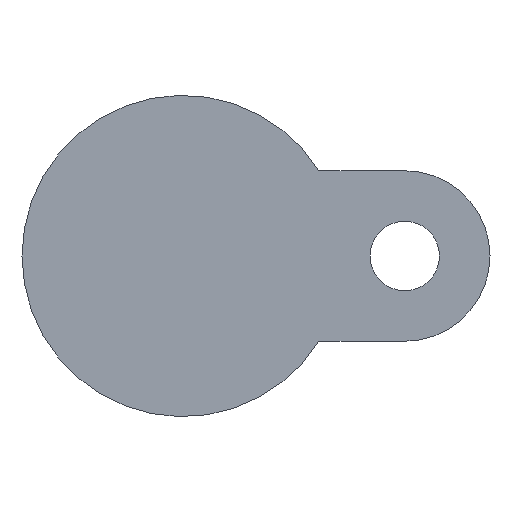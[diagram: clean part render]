
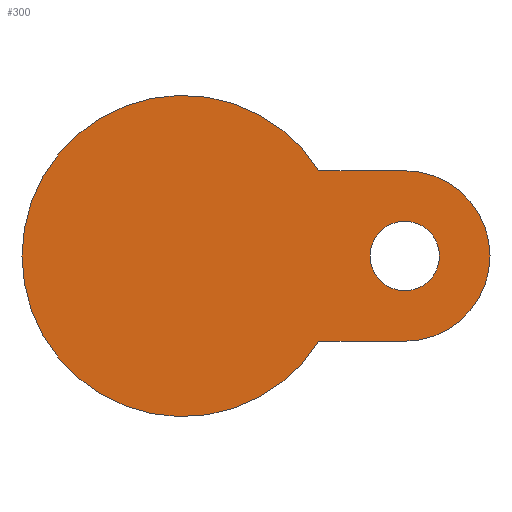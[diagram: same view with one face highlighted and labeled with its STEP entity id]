
A CAD part, front view. The second image highlights one B-rep face of the part: STEP entity #300.
In plain terms, the highlighted planar face has unit normal (0, -1, 0).
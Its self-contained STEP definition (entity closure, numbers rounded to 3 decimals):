
#36 = EDGE_CURVE ( 'NONE', #481, #1413, #1097, .T. ) ;
#50 = CARTESIAN_POINT ( 'NONE',  ( 56., -23., 0. ) ) ;
#70 = CARTESIAN_POINT ( 'NONE',  ( 56., -23., 0. ) ) ;
#84 = PLANE ( 'NONE',  #807 ) ;
#96 = ORIENTED_EDGE ( 'NONE', *, *, #1156, .T. ) ;
#123 = EDGE_LOOP ( 'NONE', ( #96, #793, #469, #1057 ) ) ;
#169 = EDGE_CURVE ( 'NONE', #598, #694, #876, .T. ) ;
#210 = DIRECTION ( 'NONE',  ( 0., -1., 0. ) ) ;
#273 = CIRCLE ( 'NONE', #1200, 21.5 ) ;
#286 = DIRECTION ( 'NONE',  ( -1., 0., 0. ) ) ;
#295 = DIRECTION ( 'NONE',  ( 1., 0., 0. ) ) ;
#300 = ADVANCED_FACE ( 'NONE', ( #322, #1377 ), #84, .T. ) ;
#322 = FACE_BOUND ( 'NONE', #1274, .T. ) ;
#324 = CIRCLE ( 'NONE', #1175, 8.75 ) ;
#332 = DIRECTION ( 'NONE',  ( 0., -1., 0. ) ) ;
#365 = ORIENTED_EDGE ( 'NONE', *, *, #1033, .T. ) ;
#371 = CARTESIAN_POINT ( 'NONE',  ( 34.322, -23., 21.5 ) ) ;
#469 = ORIENTED_EDGE ( 'NONE', *, *, #922, .F. ) ;
#481 = VERTEX_POINT ( 'NONE', #976 ) ;
#598 = VERTEX_POINT ( 'NONE', #371 ) ;
#652 = CIRCLE ( 'NONE', #674, 40.5 ) ;
#674 = AXIS2_PLACEMENT_3D ( 'NONE', #800, #210, #1150 ) ;
#694 = VERTEX_POINT ( 'NONE', #1108 ) ;
#735 = VERTEX_POINT ( 'NONE', #993 ) ;
#742 = DIRECTION ( 'NONE',  ( 0., 1., 0. ) ) ;
#751 = CARTESIAN_POINT ( 'NONE',  ( 30.5, -23., -21.5 ) ) ;
#752 = DIRECTION ( 'NONE',  ( -1., 0., 0. ) ) ;
#764 = CARTESIAN_POINT ( 'NONE',  ( 30.5, -23., 21.5 ) ) ;
#769 = CARTESIAN_POINT ( 'NONE',  ( 56., -23., 0. ) ) ;
#793 = ORIENTED_EDGE ( 'NONE', *, *, #36, .F. ) ;
#800 = CARTESIAN_POINT ( 'NONE',  ( 0., -23., 0. ) ) ;
#807 = AXIS2_PLACEMENT_3D ( 'NONE', #1013, #332, #1473 ) ;
#876 = LINE ( 'NONE', #764, #1126 ) ;
#922 = EDGE_CURVE ( 'NONE', #694, #481, #273, .T. ) ;
#964 = DIRECTION ( 'NONE',  ( -1., 0., 0. ) ) ;
#976 = CARTESIAN_POINT ( 'NONE',  ( 56., -23., -21.5 ) ) ;
#993 = CARTESIAN_POINT ( 'NONE',  ( 47.25, -23., 0. ) ) ;
#1013 = CARTESIAN_POINT ( 'NONE',  ( 40.5, -23., 0. ) ) ;
#1033 = EDGE_CURVE ( 'NONE', #735, #1293, #324, .T. ) ;
#1057 = ORIENTED_EDGE ( 'NONE', *, *, #169, .F. ) ;
#1092 = DIRECTION ( 'NONE',  ( 0., 1., 0. ) ) ;
#1093 = CARTESIAN_POINT ( 'NONE',  ( 34.322, -23., -21.5 ) ) ;
#1097 = LINE ( 'NONE', #751, #1191 ) ;
#1108 = CARTESIAN_POINT ( 'NONE',  ( 56., -23., 21.5 ) ) ;
#1126 = VECTOR ( 'NONE', #295, 1000. ) ;
#1150 = DIRECTION ( 'NONE',  ( 1., 0., 0. ) ) ;
#1156 = EDGE_CURVE ( 'NONE', #598, #1413, #652, .T. ) ;
#1175 = AXIS2_PLACEMENT_3D ( 'NONE', #70, #742, #286 ) ;
#1191 = VECTOR ( 'NONE', #964, 1000. ) ;
#1200 = AXIS2_PLACEMENT_3D ( 'NONE', #769, #1231, #1375 ) ;
#1207 = CIRCLE ( 'NONE', #1323, 8.75 ) ;
#1231 = DIRECTION ( 'NONE',  ( 0., 1., 0. ) ) ;
#1274 = EDGE_LOOP ( 'NONE', ( #365, #1281 ) ) ;
#1281 = ORIENTED_EDGE ( 'NONE', *, *, #1447, .T. ) ;
#1293 = VERTEX_POINT ( 'NONE', #1396 ) ;
#1323 = AXIS2_PLACEMENT_3D ( 'NONE', #50, #1092, #752 ) ;
#1375 = DIRECTION ( 'NONE',  ( 1., 0., 0. ) ) ;
#1377 = FACE_OUTER_BOUND ( 'NONE', #123, .T. ) ;
#1396 = CARTESIAN_POINT ( 'NONE',  ( 64.75, -23., 0. ) ) ;
#1413 = VERTEX_POINT ( 'NONE', #1093 ) ;
#1447 = EDGE_CURVE ( 'NONE', #1293, #735, #1207, .T. ) ;
#1473 = DIRECTION ( 'NONE',  ( 1., 0., 0. ) ) ;
